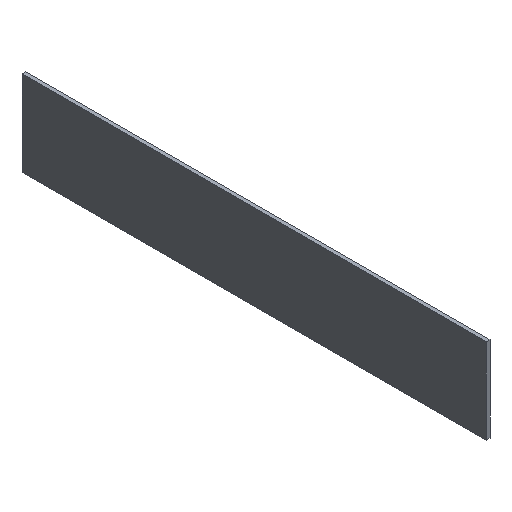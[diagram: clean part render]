
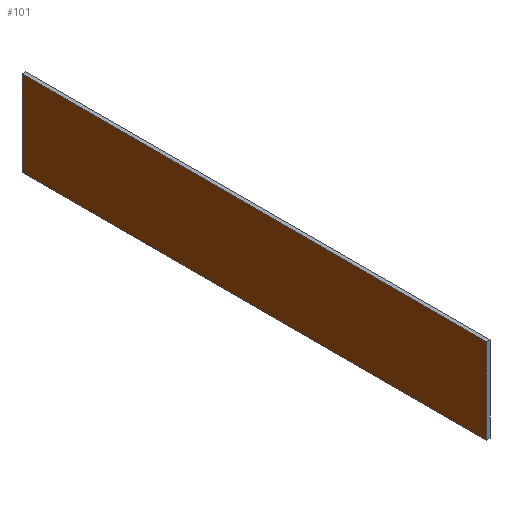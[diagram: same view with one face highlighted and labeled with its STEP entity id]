
A CAD part, isometric view. The second image highlights one B-rep face of the part: STEP entity #101.
In plain terms, the highlighted planar face has unit normal (-1, 0, 0).
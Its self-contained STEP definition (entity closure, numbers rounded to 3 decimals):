
#15=FACE_OUTER_BOUND('',#21,.T.);
#21=EDGE_LOOP('',(#71,#72,#73,#74));
#27=LINE('',#157,#39);
#28=LINE('',#159,#40);
#29=LINE('',#161,#41);
#30=LINE('',#162,#42);
#39=VECTOR('',#131,1.);
#40=VECTOR('',#132,1.);
#41=VECTOR('',#133,1.);
#42=VECTOR('',#134,1.);
#51=VERTEX_POINT('',#155);
#52=VERTEX_POINT('',#156);
#53=VERTEX_POINT('',#158);
#54=VERTEX_POINT('',#160);
#59=EDGE_CURVE('',#51,#52,#27,.T.);
#60=EDGE_CURVE('',#52,#53,#28,.T.);
#61=EDGE_CURVE('',#54,#53,#29,.T.);
#62=EDGE_CURVE('',#51,#54,#30,.T.);
#71=ORIENTED_EDGE('',*,*,#59,.T.);
#72=ORIENTED_EDGE('',*,*,#60,.T.);
#73=ORIENTED_EDGE('',*,*,#61,.F.);
#74=ORIENTED_EDGE('',*,*,#62,.F.);
#95=PLANE('',#121);
#101=ADVANCED_FACE('',(#15),#95,.F.);
#121=AXIS2_PLACEMENT_3D('',#154,#129,#130);
#129=DIRECTION('center_axis',(1.,0.,0.));
#130=DIRECTION('ref_axis',(0.,0.,1.));
#131=DIRECTION('',(0.,0.,1.));
#132=DIRECTION('',(0.,1.,0.));
#133=DIRECTION('',(0.,0.,1.));
#134=DIRECTION('',(0.,1.,0.));
#154=CARTESIAN_POINT('Origin',(30.,31.,-15.8));
#155=CARTESIAN_POINT('',(30.,31.,-15.8));
#156=CARTESIAN_POINT('',(30.,31.,-10.1));
#157=CARTESIAN_POINT('',(30.,31.,-15.8));
#158=CARTESIAN_POINT('',(30.,62.,-10.1));
#159=CARTESIAN_POINT('',(30.,31.,-10.1));
#160=CARTESIAN_POINT('',(30.,62.,-15.8));
#161=CARTESIAN_POINT('',(30.,62.,-15.8));
#162=CARTESIAN_POINT('',(30.,31.,-15.8));
